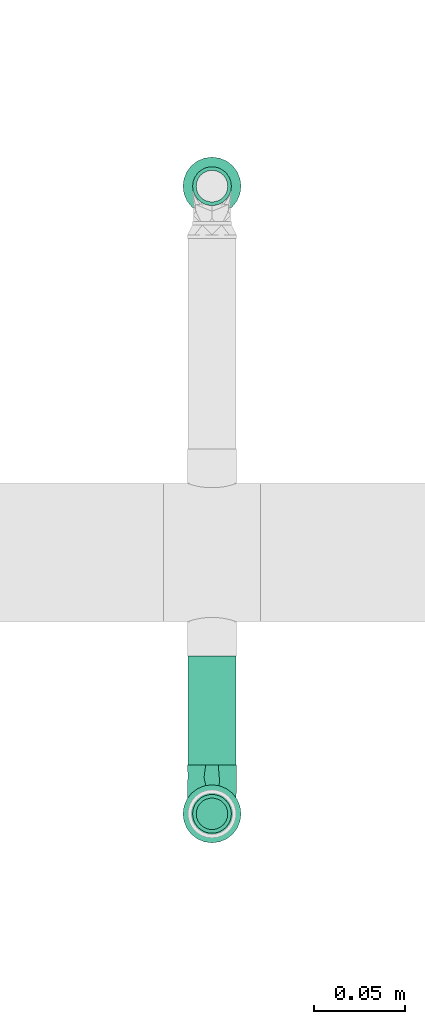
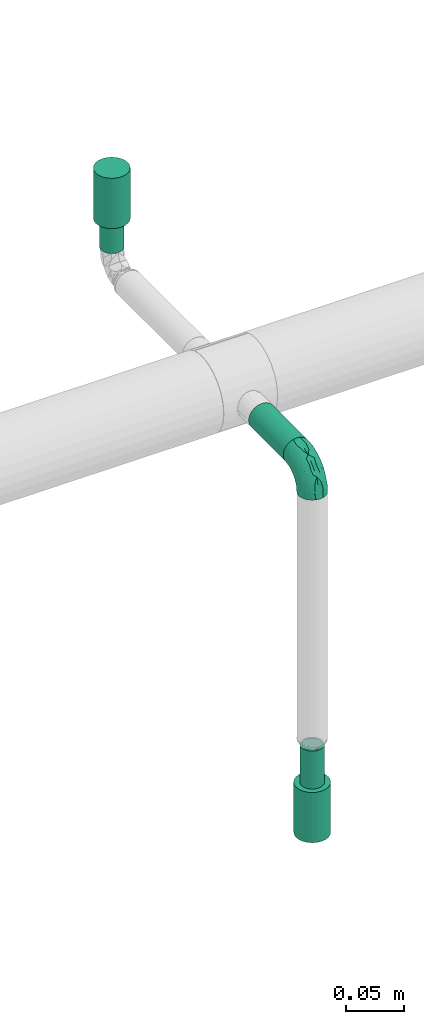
# One storey, part 36 of 51: 3 flow segments, 2 flow terminals, 1 flow fitting.
"""IFC2X3 building model written with IfcOpenShell, lengths in millimetres."""

from ifc_helpers import new_model, entity, si_unit, converted_unit, derived_unit, direction, frame, origin_with_axes, origin_2d_with_axis, place, context, subcontext, project, spatial, hollow_circle, extrude, open_shell, surface_model, source, transform, mapped, type_object, element, save


model = new_model("IFC2X3")

# Units and contexts
model_context = context("Model", 3, precision=0.01, world=frame((0.0, 4.29681676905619e-09, 0.0)), true_north=direction((4.01073788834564e-13, 1.0)))
plan_context = context("Plan", 3, precision=0.01, world=frame((0.0, 4.29681676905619e-09, 0.0)), true_north=direction((4.01073788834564e-13, 1.0)))
body_context = subcontext(model_context, "Body", "Model", "MODEL_VIEW")
ifc_project = project(units=[converted_unit("PLANEANGLEUNIT", "DEGREE", entity("IfcPositiveLengthMeasure", 0.0174532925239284), si_unit("PLANEANGLEUNIT", "RADIAN"), dimensions=[0, 0, 0, 0, 0, 0, 0]), si_unit("AREAUNIT", "SQUARE_METRE"), si_unit("LENGTHUNIT", "METRE", prefix="MILLI"), si_unit("MASSUNIT", "GRAM", prefix="KILO"), si_unit("POWERUNIT", "WATT"), si_unit("PRESSUREUNIT", "PASCAL"), si_unit("FORCEUNIT", "NEWTON", prefix="KILO"), si_unit("ELECTRICVOLTAGEUNIT", "VOLT"), si_unit("ELECTRICCURRENTUNIT", "AMPERE"), si_unit("THERMODYNAMICTEMPERATUREUNIT", "DEGREE_CELSIUS"), si_unit("TIMEUNIT", "SECOND"), si_unit("VOLUMEUNIT", "CUBIC_METRE"), derived_unit("LINEARVELOCITYUNIT", [(si_unit("LENGTHUNIT", "METRE"), 1), (si_unit("TIMEUNIT", "SECOND"), -1)]), derived_unit("VOLUMETRICFLOWRATEUNIT", [(si_unit("VOLUMEUNIT", "CUBIC_METRE"), 1), (si_unit("TIMEUNIT", "SECOND"), -1)]), derived_unit("THERMALTRANSMITTANCEUNIT", [(si_unit("POWERUNIT", "WATT"), 1), (si_unit("THERMODYNAMICTEMPERATUREUNIT", "KELVIN"), -1), (si_unit("AREAUNIT", "SQUARE_METRE"), -1)]), derived_unit("SOUNDPRESSUREUNIT", [(si_unit("PRESSUREUNIT", "PASCAL"), 1)])], contexts=[model_context, plan_context])

# Site, building, storey
site_placement = place(None, frame((0.0, -4.29681676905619e-09, 0.0), z_axis=(0.0, 0.0, 1.0), x_axis=(1.0, 0.0, 0.0)))
site = spatial("IfcSite", under=ifc_project, at=site_placement, Name="ENGM", CompositionType="ELEMENT")
building_placement = place(site_placement, frame((0.0, 4.29681676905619e-09, 0.0), z_axis=(0.0, 0.0, 1.0), x_axis=(1.0, 0.0, 0.0)))
building = spatial("IfcBuilding", under=site, at=building_placement, Name="TH", CompositionType="ELEMENT")
storey_placement = place(building_placement, frame((0.0, 0.0, 210200.0), z_axis=(0.0, 0.0, 1.0), x_axis=(1.0, 0.0, 0.0)))
storey = spatial("IfcBuildingStorey", under=building, at=storey_placement, Name="Nivå F - 0,7 m", CompositionType="ELEMENT", Elevation=210200.0)

# Flow fitting
pipe_fitting_type = type_object("IfcPipeFittingType", Name="magi_pipe_fe_elbow_short_001", PredefinedType="BEND")
shared_shape_1 = source(origin_with_axes(), body_context, "Body", "SurfaceModel", [
    surface_model("IfcShellBasedSurfaceModel", [(-26.8, 0.0, -13.4), (-26.8, -12.94341, -3.46818), (-26.8, 3.46818, -12.94341), (-26.8, 6.7, -11.60474), (-26.8, 9.47523, -9.47523), (-26.8, 11.60474, -6.7), (-26.8, 11.60474, 6.7), (-26.8, -9.47523, -9.47523), (-26.8, -6.7, -11.60474), (-26.8, -3.46818, -12.94341), (-26.8, -11.60474, -6.7), (-26.8, -13.4, 0.0), (-26.8, -12.94341, 3.46818), (-26.8, 12.94341, -3.46818), (-26.8, 12.94341, 3.46818), (-26.8, 3.46818, 12.94341), (-26.8, 6.7, 11.60474), (-26.8, 9.47523, 9.47523), (-26.8, -6.7, 11.60474), (-26.8, -11.60474, 6.7), (-26.8, -9.47523, 9.47523), (-26.8, -3.46818, 12.94341), (-26.8, 0.0, 13.4), (-26.8, 13.4, 0.0), (-3.46818, 26.8, -12.94341), (12.94341, 26.8, -3.46818), (0.0, 26.8, -13.4), (-9.47523, 26.8, -9.47523), (-6.7, 26.8, -11.60474), (-11.60474, 26.8, -6.7), (-11.60474, 26.8, 6.7), (6.7, 26.8, -11.60474), (9.47523, 26.8, -9.47523), (3.46818, 26.8, -12.94341), (11.60474, 26.8, -6.7), (12.94341, 26.8, 3.46818), (13.4, 26.8, 0.0), (-13.4, 26.8, 0.0), (-12.94341, 26.8, -3.46818), (-12.94341, 26.8, 3.46818), (-9.47523, 26.8, 9.47523), (-6.7, 26.8, 11.60474), (-3.46818, 26.8, 12.94341), (6.7, 26.8, 11.60474), (9.47523, 26.8, 9.47523), (11.60474, 26.8, 6.7), (3.46818, 26.8, 12.94341), (0.0, 26.8, 13.4), (-17.94383, -11.72186, 4.19396), (-19.61933, -10.40522, 7.51874), (-14.00394, -9.97131, 0.0), (-10.88146, -9.75217, 2.96415), (5.6402, 4.14256, 4.06277), (2.9355, 3.86758, 7.99817), (-0.16552, -0.70254, 6.90229), (-11.69279, -8.47867, 6.74741), (-3.60975, -5.23517, 4.12915), (-20.40197, -11.68565, 0.0), (6.07727, 10.7767, 9.16668), (7.71917, 17.5318, 9.98024), (3.23022, 10.34855, 11.14395), (-17.5318, -7.71917, 9.98024), (-19.6814, -5.06542, 12.05518), (-20.47091, -1.77513, 13.17083), (-18.76435, 2.05404, 13.37716), (-10.34855, -3.23022, 11.14395), (-13.34095, -0.12025, 12.98799), (-20.6562, 5.25542, 12.65822), (-21.01515, 11.15223, 8.78653), (-19.1981, 14.0055, 6.12639), (-23.45804, 12.58298, 5.55254), (-13.79572, 19.62699, 6.0655), (-4.65712, 13.17755, 13.37596), (-9.92557, 9.92557, 13.07441), (-7.97904, 5.85569, 13.33097), (-14.12498, 14.96497, 9.49183), (-23.18377, 8.11481, 10.91864), (-3.49778, 8.97497, 13.15743), (-6.65819, 2.45826, 12.5129), (-1.36893, 7.23965, 12.31444), (-22.3163, 13.71444, 3.37662), (-20.76788, 15.89859, 0.0), (-5.00198, 23.11411, 12.55149), (-1.83653, 20.04451, 13.36709), (5.06542, 19.6814, 12.05518), (-4.60225, -3.19632, 8.30444), (-2.39362, 2.39362, 10.95564), (1.77513, 20.47091, 13.17083), (10.40522, 19.61933, 7.51874), (8.47867, 11.69279, 6.74741), (11.72186, 17.94383, 4.19396), (-10.7767, -6.07727, 9.16668), (-14.71477, 20.20527, 3.11661), (-18.32912, 15.92283, 3.19527), (9.75217, 10.88146, 2.96415), (9.97131, 14.00394, 0.0), (11.68565, 20.40197, 0.0), (-17.32477, 17.32477, 0.0), (8.01422, 6.7, 0.0), (-11.0099, 17.80242, 10.25412), (-8.46783, 20.75346, 11.10693), (-11.06207, 21.36651, 8.74797), (-10.13559, 14.48567, 11.94159), (-5.79525, 18.15733, 12.76163), (-14.31139, 12.02432, 11.13575), (-6.7, -8.01422, 0.0), (-14.72492, 5.73985, 13.1602), (-13.14892, 3.28357, 13.39428), (-14.24576, 9.09225, 12.39421), (-7.80572, 13.90987, 12.83655), (0.12025, 13.34095, 12.98799), (-18.45241, 9.09615, 11.28418), (-1.02036, 0.84565, 9.15855), (-3.66591, -4.13183, 6.30134), (-3.02144, -4.33567, 0.0), (1.56761, -1.1228, 3.23127), (-15.89859, 20.76788, 0.0), (4.33567, 3.02144, 0.0), (0.65711, -0.65711, 0.0), (-21.21323, 1.69434, -13.35639), (-11.59215, 19.61477, -8.94181), (-19.9553, -12.05444, -4.41231), (-20.61911, 5.26132, -12.65979), (-18.29002, 15.89425, -3.37935), (-10.94714, -3.38176, -11.24231), (-11.6358, -0.16715, -12.74497), (-5.38395, -0.22423, -10.97991), (-19.45447, 8.78609, -11.20697), (-21.18665, 11.10723, -8.76769), (8.05635, 19.80434, -10.14754), (-16.16073, 12.27967, -10.10626), (-10.65974, -9.81032, -2.24682), (-4.63434, -6.26604, -3.21731), (-12.41035, 15.57424, -10.31822), (-9.54276, 16.38525, -11.6371), (-12.38435, 12.38435, -11.76567), (-1.18054, -2.52878, -5.66699), (1.17703, 2.36499, -8.51656), (4.94456, 3.94062, -5.27361), (-13.23013, 7.7548, -12.95755), (-18.92609, -10.30887, -7.4546), (-19.80434, -8.05635, -10.14754), (-5.46999, 19.49566, -12.70683), (12.05444, 19.9553, -4.41231), (-22.63124, -5.28269, -12.19553), (-11.57403, -7.91736, -7.4927), (-10.00514, -5.4662, -9.37392), (0.56412, 6.29454, -11.17498), (0.16715, 11.6358, -12.74497), (2.76952, 11.43973, -11.70622), (-22.71135, 13.83144, -2.294), (-13.13887, 21.26515, -5.84046), (-14.02683, 21.74629, -2.98452), (10.30887, 18.92609, -7.4546), (-4.73052, 4.73052, -12.6532), (-16.28385, 15.93209, -6.57302), (-1.69434, 21.21323, -13.35639), (-8.4106, 21.03687, -11.08508), (1.68957, 19.74249, -13.15499), (5.28269, 22.63124, -12.19553), (-19.74249, -1.68957, -13.15499), (-16.96978, -4.62448, -11.91765), (-3.16773, 14.76219, -13.39711), (-7.24575, 7.81916, -13.39239), (-7.92886, 12.7032, -13.00116), (-6.57993, -6.26304, -6.05124), (9.46363, 9.95483, -2.39006), (6.59847, 4.89531, -2.6225), (0.29079, -2.47661, -2.876), (-21.42347, 13.17132, -5.65321), (9.35918, 11.66841, -5.08525), (8.33374, 12.94014, -7.69724), (5.4662, 10.00514, -9.37392), (4.62448, 16.96978, -11.91765), (-3.89324, -2.60816, -8.35445), (5.97121, 7.49007, -7.29975), (-14.76219, 3.16773, -13.39711), (-15.36238, 22.06238, 0.0), (-11.66841, -9.35918, -5.08525), (3.63632, 1.19488, -3.35093), (-14.94382, 15.17624, -8.6945)], [open_shell([[[0, 1, 2]], [[3, 2, 4]], [[5, 2, 1]], [[4, 2, 5]], [[5, 1, 6]], [[7, 1, 8]], [[0, 9, 8]], [[10, 1, 7]], [[8, 1, 0]], [[11, 12, 1]], [[13, 5, 14]], [[5, 6, 14]], [[1, 15, 6]], [[15, 16, 17]], [[6, 15, 17]], [[1, 18, 15]], [[19, 20, 12]], [[18, 12, 20]], [[18, 21, 15]], [[18, 1, 12]], [[15, 21, 22]], [[14, 23, 13]], [[24, 25, 26]], [[27, 24, 28]], [[25, 24, 29]], [[29, 24, 27]], [[30, 25, 29]], [[31, 25, 32]], [[31, 33, 26]], [[32, 25, 34]], [[26, 25, 31]], [[25, 35, 36]], [[37, 29, 38]], [[39, 30, 29]], [[30, 40, 25]], [[40, 41, 42]], [[42, 25, 40]], [[43, 25, 42]], [[35, 44, 45]], [[44, 35, 43]], [[42, 46, 43]], [[35, 25, 43]], [[47, 46, 42]], [[39, 29, 37]], [[48, 49, 19]], [[48, 50, 51]], [[52, 53, 54]], [[55, 51, 56]], [[49, 20, 19]], [[57, 48, 12]], [[58, 59, 60]], [[61, 18, 20]], [[61, 62, 18]], [[22, 63, 64]], [[62, 65, 66]], [[59, 44, 43]], [[22, 21, 63]], [[67, 16, 15]], [[68, 69, 70]], [[30, 39, 71]], [[72, 73, 74]], [[69, 68, 75]], [[22, 64, 15]], [[16, 76, 17]], [[6, 17, 68]], [[77, 78, 79]], [[80, 81, 23]], [[42, 82, 83]], [[43, 84, 59]], [[85, 86, 65]], [[46, 47, 87]], [[88, 89, 90]], [[91, 65, 61]], [[47, 42, 83]], [[71, 92, 93]], [[90, 94, 95]], [[84, 43, 46]], [[88, 90, 45]], [[59, 84, 60]], [[35, 45, 90]], [[75, 71, 69]], [[18, 62, 21]], [[90, 96, 35]], [[97, 81, 93]], [[94, 98, 95]], [[92, 97, 93]], [[50, 48, 57]], [[70, 14, 6]], [[99, 100, 101]], [[40, 101, 100]], [[41, 40, 100]], [[102, 103, 100]], [[103, 72, 83]], [[82, 100, 103]], [[82, 42, 41]], [[99, 104, 102]], [[23, 14, 80]], [[67, 15, 64]], [[51, 50, 105]], [[48, 19, 12]], [[49, 55, 61]], [[45, 44, 88]], [[89, 52, 94]], [[106, 107, 74]], [[108, 67, 106]], [[40, 30, 101]], [[103, 102, 109]], [[103, 109, 72]], [[87, 83, 110]], [[76, 68, 17]], [[68, 111, 104]], [[65, 62, 61]], [[63, 62, 66]], [[91, 61, 55]], [[65, 86, 78]], [[87, 84, 46]], [[110, 79, 60]], [[110, 60, 84]], [[86, 112, 60]], [[55, 49, 48]], [[61, 20, 49]], [[44, 59, 88]], [[89, 88, 59]], [[106, 67, 64]], [[76, 67, 111]], [[53, 52, 89]], [[112, 86, 85]], [[56, 113, 55]], [[112, 54, 53]], [[58, 89, 59]], [[56, 51, 105]], [[114, 115, 56]], [[14, 70, 80]], [[69, 71, 93]], [[37, 116, 92]], [[92, 116, 97]], [[30, 71, 101]], [[75, 101, 71]], [[99, 102, 100]], [[108, 104, 111]], [[106, 74, 73]], [[110, 83, 72]], [[78, 74, 66]], [[72, 74, 77]], [[83, 87, 47]], [[84, 87, 110]], [[62, 63, 21]], [[64, 63, 66]], [[12, 11, 57]], [[96, 90, 95]], [[96, 36, 35]], [[115, 117, 52]], [[56, 105, 114]], [[55, 48, 51]], [[89, 94, 90]], [[52, 98, 94]], [[106, 64, 107]], [[108, 106, 73]], [[102, 108, 73]], [[67, 108, 111]], [[102, 104, 108]], [[68, 104, 75]], [[64, 66, 107]], [[66, 74, 107]], [[65, 78, 66]], [[79, 78, 86]], [[60, 79, 86]], [[77, 79, 110]], [[72, 77, 110]], [[78, 77, 74]], [[67, 76, 16]], [[68, 76, 111]], [[100, 82, 41]], [[83, 82, 103]], [[68, 70, 6]], [[80, 69, 93]], [[69, 80, 70]], [[80, 93, 81]], [[55, 85, 91]], [[85, 65, 91]], [[60, 53, 58]], [[53, 89, 58]], [[54, 112, 85]], [[60, 112, 53]], [[85, 113, 54]], [[113, 115, 54]], [[55, 113, 85]], [[115, 113, 56]], [[71, 39, 92]], [[115, 114, 118]], [[37, 92, 39]], [[101, 75, 99]], [[99, 75, 104]], [[102, 73, 109]], [[72, 109, 73]], [[54, 115, 52]], [[117, 115, 118]], [[117, 98, 52]], [[2, 119, 0]], [[29, 27, 120]], [[121, 57, 1]], [[3, 122, 2]], [[97, 123, 81]], [[124, 125, 126]], [[127, 4, 128]], [[32, 129, 31]], [[127, 128, 130]], [[131, 132, 105]], [[133, 134, 135]], [[127, 3, 4]], [[136, 137, 138]], [[139, 122, 127]], [[4, 5, 128]], [[10, 140, 121]], [[141, 140, 7]], [[24, 142, 28]], [[95, 143, 96]], [[144, 8, 9]], [[145, 141, 146]], [[25, 36, 96]], [[147, 148, 149]], [[140, 10, 7]], [[23, 81, 150]], [[130, 133, 135]], [[151, 152, 38]], [[153, 34, 143]], [[147, 154, 148]], [[38, 29, 151]], [[120, 155, 151]], [[32, 153, 129]], [[26, 156, 24]], [[24, 156, 142]], [[143, 34, 25]], [[27, 28, 157]], [[123, 152, 155]], [[158, 33, 159]], [[144, 160, 161]], [[122, 3, 127]], [[148, 162, 158]], [[157, 28, 142]], [[162, 163, 164]], [[159, 33, 31]], [[165, 136, 132]], [[34, 153, 32]], [[166, 98, 167]], [[160, 9, 0]], [[161, 160, 125]], [[95, 166, 143]], [[50, 131, 105]], [[121, 1, 10]], [[168, 114, 132]], [[150, 169, 13]], [[167, 98, 117]], [[33, 158, 26]], [[164, 142, 162]], [[133, 157, 134]], [[7, 8, 141]], [[165, 145, 146]], [[170, 171, 153]], [[129, 172, 173]], [[126, 137, 174]], [[175, 137, 172]], [[148, 158, 173]], [[156, 158, 162]], [[149, 172, 147]], [[148, 154, 163]], [[119, 160, 0]], [[176, 163, 125]], [[176, 125, 160]], [[125, 154, 126]], [[169, 128, 5]], [[127, 130, 135]], [[139, 127, 135]], [[119, 122, 176]], [[120, 151, 29]], [[152, 97, 177]], [[142, 164, 134]], [[120, 27, 157]], [[152, 37, 38]], [[81, 123, 150]], [[123, 155, 169]], [[152, 123, 97]], [[140, 178, 121]], [[121, 178, 131]], [[144, 141, 8]], [[146, 141, 161]], [[25, 96, 143]], [[170, 153, 143]], [[129, 153, 171]], [[159, 129, 173]], [[137, 147, 172]], [[126, 154, 147]], [[172, 171, 175]], [[174, 137, 136]], [[137, 126, 147]], [[126, 146, 124]], [[117, 118, 179]], [[179, 138, 167]], [[128, 169, 155]], [[5, 13, 169]], [[57, 121, 50]], [[57, 11, 1]], [[122, 119, 2]], [[160, 119, 176]], [[158, 156, 26]], [[142, 156, 162]], [[162, 148, 163]], [[139, 135, 164]], [[125, 163, 154]], [[139, 163, 176]], [[163, 139, 164]], [[122, 139, 176]], [[155, 180, 128]], [[180, 120, 133]], [[180, 133, 130]], [[157, 133, 120]], [[142, 134, 157]], [[164, 135, 134]], [[128, 180, 130]], [[120, 180, 155]], [[152, 151, 155]], [[37, 152, 177]], [[169, 150, 123]], [[23, 150, 13]], [[121, 131, 50]], [[178, 165, 132]], [[178, 132, 131]], [[168, 132, 136]], [[145, 165, 178]], [[174, 165, 146]], [[178, 140, 145]], [[141, 145, 140]], [[179, 136, 138]], [[170, 166, 167]], [[168, 179, 118]], [[170, 167, 138]], [[143, 166, 170]], [[95, 98, 166]], [[117, 179, 167]], [[136, 179, 168]], [[129, 159, 31]], [[158, 159, 173]], [[160, 144, 9]], [[141, 144, 161]], [[175, 170, 138]], [[129, 171, 172]], [[170, 175, 171]], [[137, 175, 138]], [[148, 173, 149]], [[172, 149, 173]], [[165, 174, 136]], [[126, 174, 146]], [[146, 161, 124]], [[125, 124, 161]], [[114, 168, 118]], [[114, 105, 132]]])]),
])
flow_fitting_placement = place(storey_placement, frame((906000.0, 484185.40642, 2933.0), z_axis=(1.0, 0.0, 0.0), x_axis=(0.0, -1.0, 0.0)))
element("IfcFlowFitting", 1, at=flow_fitting_placement, inside=storey, type_object=pipe_fitting_type, Name="magi_pipe_fe_elbow_short_001", context=body_context, shape_type="MappedRepresentation", body=[
    mapped(shared_shape_1, transform((0.0, 0.0, 0.0), scale=1.0)),
])

# Flow segments
pipe_segment_type = type_object("IfcPipeSegmentType", Name="Stålrør normaltykke", PredefinedType="RIGIDSEGMENT")
shared_shape_2 = source(origin_with_axes(), body_context, "Body", "SweptSolid", [
    extrude(hollow_circle(Radius=10.7, WallThickness=2.0, at=origin_2d_with_axis()), frame((0.0, 0.0, 0.0), z_axis=(1.0, 0.0, 0.0), x_axis=(0.0, 1.0, 0.0)), (0.0, 0.0, 1.0), 43.0),
])
flow_segment_1_placement = place(storey_placement, frame((906000.0, 484185.40642, 2596.95199999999), z_axis=(0.0, -1.0, 0.0), x_axis=(0.0, 0.0, 1.0)))
element("IfcFlowSegment", 2, at=flow_segment_1_placement, inside=storey, type_object=pipe_segment_type, Name="Stålrør normaltykke", context=body_context, shape_type="MappedRepresentation", body=[
    mapped(shared_shape_2, transform((0.0, 0.0, 0.0), scale=1.0)),
])
shared_shape_3 = source(origin_with_axes(), body_context, "Body", "SweptSolid", [
    extrude(hollow_circle(Radius=13.3, WallThickness=2.0, at=origin_2d_with_axis()), frame((0.0, 0.0, 0.0), z_axis=(1.0, 0.0, 0.0), x_axis=(0.0, 1.0, 0.0)), (0.0, 0.0, 1.0), 60.1),
])
flow_segment_2_placement = place(storey_placement, frame((906000.0, 484272.30519, 2933.0), z_axis=(0.0, 0.0, 1.0), x_axis=(0.0, -1.0, 0.0)))
element("IfcFlowSegment", 3, at=flow_segment_2_placement, inside=storey, type_object=pipe_segment_type, Name="Stålrør normaltykke", context=body_context, shape_type="MappedRepresentation", body=[
    mapped(shared_shape_3, transform((0.0, 0.0, 0.0), scale=1.0)),
])
shared_shape_4 = source(origin_with_axes(), body_context, "Body", "SweptSolid", [
    extrude(hollow_circle(Radius=10.7, WallThickness=2.0, at=origin_2d_with_axis()), frame((0.0, 0.0, 0.0), z_axis=(1.0, 0.0, 0.0), x_axis=(0.0, 1.0, 0.0)), (0.0, 0.0, 1.0), 33.1),
])
flow_segment_3_placement = place(storey_placement, frame((906000.0, 484531.46933, 2987.54800000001), z_axis=(0.0, 1.0, 0.0), x_axis=(0.0, 0.0, -1.0)))
element("IfcFlowSegment", 4, at=flow_segment_3_placement, inside=storey, type_object=pipe_segment_type, Name="Stålrør normaltykke", context=body_context, shape_type="MappedRepresentation", body=[
    mapped(shared_shape_4, transform((0.0, 0.0, 0.0), scale=1.0)),
])

# Flow terminals
fire_suppression_terminal_type_1 = type_object("IfcFireSuppressionTerminalType", Name="SP-15-K80-68DGR-STD-HIMLING", PredefinedType="NOTDEFINED")
shared_shape_5 = source(origin_with_axes(), body_context, "Body", "SurfaceModel", [
    surface_model("IfcShellBasedSurfaceModel", [(4.1411, -15.45481, 53.0), (8.0, -13.85641, 53.0), (11.31371, -11.31371, 53.0), (-8.0, -13.85641, 53.0), (15.45481, -4.1411, 53.0), (16.0, 0.0, 53.0), (13.85641, -8.0, 53.0), (0.0, -16.0, 53.0), (-4.1411, -15.45481, 53.0), (-13.85641, -8.0, 53.0), (-11.31371, -11.31371, 53.0), (-15.45481, -4.1411, 53.0), (15.45481, 4.1411, 53.0), (13.85641, 8.0, 53.0), (11.31371, 11.31371, 53.0), (-4.1411, 15.45481, 53.0), (8.0, 13.85641, 53.0), (4.1411, 15.45481, 53.0), (0.0, 16.0, 53.0), (-13.85641, 8.0, 53.0), (-15.45481, 4.1411, 53.0), (-16.0, 0.0, 53.0), (-11.31371, 11.31371, 53.0), (-8.0, 13.85641, 53.0), (0.0, 16.0, 0.0), (4.1411, 15.45481, 0.0), (8.0, 13.85641, 0.0), (-4.1411, 15.45481, 0.0), (11.31371, 11.31371, 0.0), (13.85641, 8.0, 0.0), (15.45481, 4.1411, 0.0), (-15.45481, -4.1411, 0.0), (-11.31371, 11.31371, 0.0), (-8.0, 13.85641, 0.0), (-13.85641, 8.0, 0.0), (-15.45481, 4.1411, 0.0), (-16.0, 0.0, 0.0), (4.1411, -15.45481, 0.0), (16.0, 0.0, 0.0), (15.45481, -4.1411, 0.0), (13.85641, -8.0, 0.0), (11.31371, -11.31371, 0.0), (8.0, -13.85641, 0.0), (-8.0, -13.85641, 0.0), (-13.85641, -8.0, 0.0), (-11.31371, -11.31371, 0.0), (0.0, -16.0, 0.0), (-4.1411, -15.45481, 0.0)], [open_shell([[[0, 1, 2]], [[3, 0, 2]], [[4, 5, 2]], [[4, 2, 6]], [[3, 2, 5]], [[7, 3, 8]], [[7, 0, 3]], [[3, 9, 10]], [[9, 3, 11]], [[5, 11, 3]], [[5, 12, 11]], [[12, 13, 14]], [[15, 12, 14]], [[16, 17, 18]], [[14, 16, 15]], [[18, 15, 16]], [[11, 19, 20]], [[21, 11, 20]], [[22, 15, 23]], [[15, 22, 19]], [[19, 11, 15]], [[11, 12, 15]], [[24, 25, 26]], [[27, 24, 26]], [[28, 29, 30]], [[27, 26, 28]], [[27, 28, 31]], [[27, 32, 33]], [[32, 27, 34]], [[34, 31, 35]], [[31, 34, 27]], [[35, 31, 36]], [[28, 30, 31]], [[37, 38, 39]], [[37, 39, 40]], [[41, 42, 37]], [[41, 37, 40]], [[38, 37, 43]], [[44, 43, 45]], [[43, 44, 31]], [[43, 46, 47]], [[43, 31, 38]], [[37, 46, 43]], [[38, 31, 30]], [[11, 31, 44]], [[45, 9, 44]], [[3, 43, 47]], [[45, 43, 10]], [[8, 47, 46]], [[31, 21, 36]], [[31, 11, 21]], [[44, 9, 11]], [[45, 10, 9]], [[3, 10, 43]], [[47, 8, 3]], [[46, 7, 8]], [[0, 37, 42]], [[41, 1, 42]], [[6, 40, 39]], [[41, 40, 2]], [[4, 39, 38]], [[37, 0, 7]], [[42, 1, 0]], [[41, 2, 1]], [[40, 6, 2]], [[4, 6, 39]], [[38, 5, 4]], [[37, 7, 46]], [[12, 38, 30]], [[13, 30, 29]], [[16, 26, 25]], [[17, 25, 24]], [[30, 13, 12]], [[12, 5, 38]], [[28, 14, 13]], [[28, 26, 14]], [[14, 26, 16]], [[25, 17, 16]], [[28, 13, 29]], [[24, 18, 17]], [[15, 27, 33]], [[32, 23, 33]], [[19, 34, 35]], [[32, 34, 22]], [[20, 35, 36]], [[27, 15, 18]], [[33, 23, 15]], [[32, 22, 23]], [[34, 19, 22]], [[20, 19, 35]], [[36, 21, 20]], [[27, 18, 24]]])]),
])
flow_terminal_1_placement = place(storey_placement, frame((906000.0, 484185.40642, 2600.0), z_axis=(0.0, 0.0, -1.0), x_axis=(-1.0, 0.0, 0.0)))
element("IfcFlowTerminal", 5, at=flow_terminal_1_placement, inside=storey, type_object=fire_suppression_terminal_type_1, Name="SP-15-K80-68DGR-STD-HIMLING", context=body_context, shape_type="MappedRepresentation", body=[
    mapped(shared_shape_5, transform((0.0, 0.0, 0.0), scale=1.0)),
])
fire_suppression_terminal_type_2 = type_object("IfcFireSuppressionTerminalType", Name="SP-15-K80-68DGR-STD-STÅENDE", PredefinedType="NOTDEFINED")
flow_terminal_2_placement = place(storey_placement, frame((906000.0, 484531.46933, 2984.5), z_axis=(0.0, 0.0, 1.0), x_axis=(1.0, 0.0, 0.0)))
element("IfcFlowTerminal", 6, at=flow_terminal_2_placement, inside=storey, type_object=fire_suppression_terminal_type_2, Name="SP-15-K80-68DGR-STD-STÅENDE", context=body_context, shape_type="MappedRepresentation", body=[
    mapped(shared_shape_5, transform((0.0, 0.0, 0.0), scale=1.0)),
])

save(model, "model.ifc")
